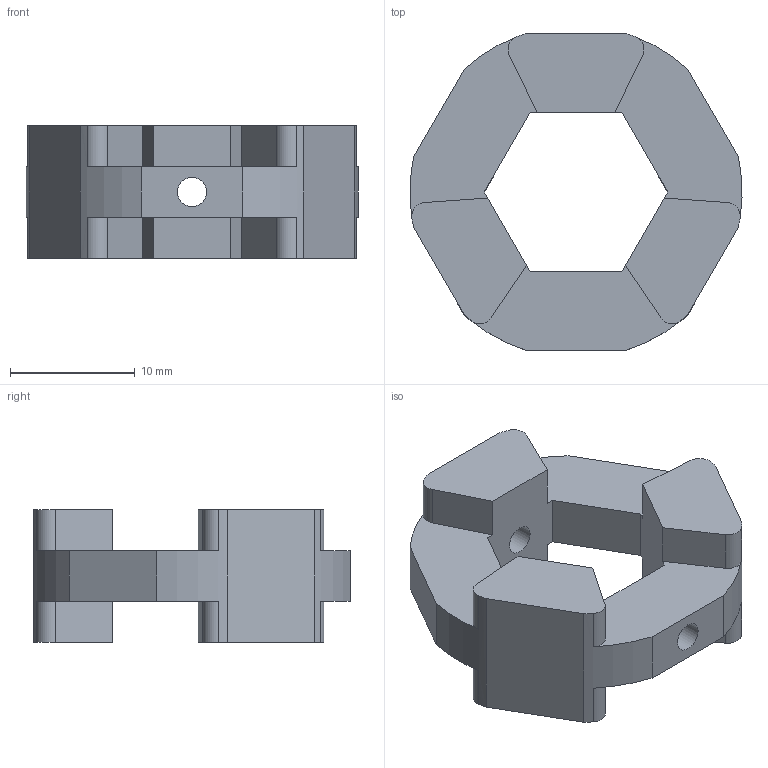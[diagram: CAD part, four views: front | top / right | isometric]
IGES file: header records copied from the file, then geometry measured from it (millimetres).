
Global section: file name: No Iges File Name specified; native system: AutoDesk Inventor R6.0; preprocessor: AutoDesk Inventor Iges Exporter R6.0; author: No Author specified; organization: No Organization specified; date: 20080103.164219; units: inch
Bounding box: 26.65 x 25.4 x 10.67 mm (x, y, z)
Surface area: 1973.9 mm2 (no closed solid volume)
Topology: 0 solids, 0 shells, 56 faces, 335 edges, 333 vertices
Faces by surface type: plane 27, revolution 18, bspline 11
